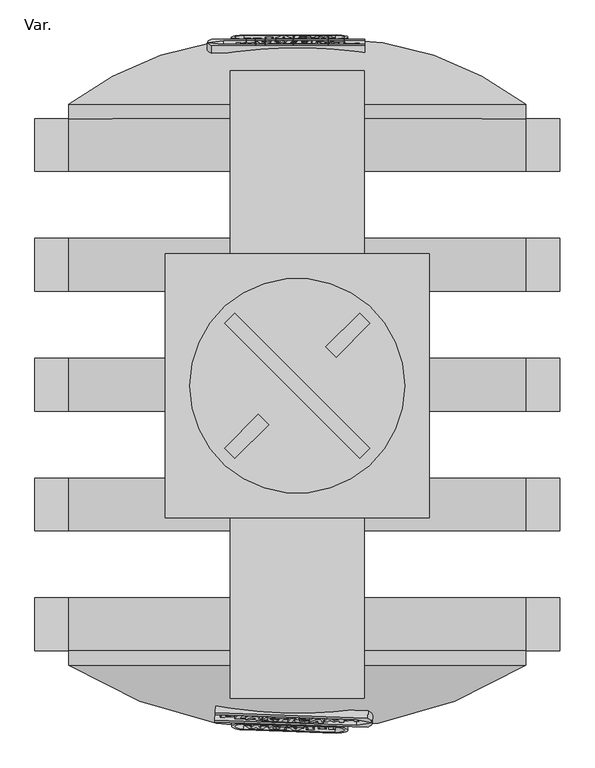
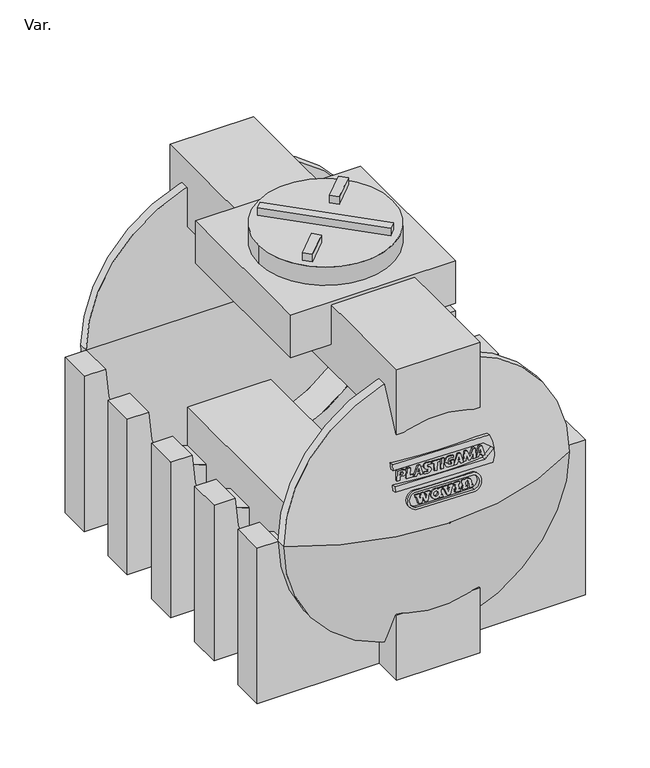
"""IFC4 building model written with IfcOpenShell, lengths in millimetres: pipe fitting geometry, PlastigamaWavin_Unionesdetubería_ZNoUsarTanque1200L : Var.."""

from ifc_helpers import new_model, si_unit, point, frame, frame_2d, origin, origin_2d, place, context, project, spatial, polyline, circle_curve, ellipse_curve, trimmed, segment, composite_curve, outline, extrude, source, transform, mapped, element, save
from ifc_brep_helpers import plane_surface, cylinder_surface, revolved_surface, advanced_brep


def var_8224f5ad(model_context):
    return source(origin(), model_context, "Body", "SolidModel", [
        extrude(outline(composite_curve([segment(polyline([(7.1853273, -60.8484834), (-189.0646726, -60.8484834)]), True, "CONTINUOUS"), segment(trimmed(circle_curve(frame_2d((-182.3768294, -30.8484834)), 30.7364157), [point((-189.0646726, -60.8484834))], [point((-189.0646726, -0.8484834))], False, "CARTESIAN"), True, "CONTINUOUS"), segment(polyline([(-189.0646726, -0.8484834), (7.1853274, -0.8484834)]), True, "CONTINUOUS"), segment(trimmed(circle_curve(frame_2d((0.0, -30.8484834)), 30.8484834), [point((7.1853274, -0.8484834))], [point((7.1853273, -60.8484834))], False, "CARTESIAN"), True, "CONTINUOUS")], self_intersect=False), holes=[composite_curve([segment(polyline([(-186.7755788, -53.1040075), (4.9297558, -53.1040076)]), True, "CONTINUOUS"), segment(trimmed(circle_curve(frame_2d((0.0634268, -30.4727929)), 23.1484996), [point((4.9297558, -53.1040076))], [point((4.9297558, -7.8415783))], True, "CARTESIAN"), True, "CONTINUOUS"), segment(polyline([(4.9297558, -7.8415783), (-186.7755788, -7.8415782)]), True, "CONTINUOUS"), segment(trimmed(circle_curve(frame_2d((-182.0733889, -30.4727929)), 23.114551), [point((-186.7755788, -7.8415782))], [point((-186.7755788, -53.1040075))], True, "CARTESIAN"), True, "CONTINUOUS")], self_intersect=False)]), frame((75.0111325, 1276.3296707, 58.6801636), z_axis=(-0.001818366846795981, 0.9886376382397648, 0.15030739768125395), x_axis=(0.9999961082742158, 0.0021157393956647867, -0.0018185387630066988)), (0.0, 0.0, 1.0), 13.7735647),
        extrude(outline(polyline([(8.181052, -1e-07), (8.181052, -2.5070966), (20.0567725, -1e-07), (1e-07, 5.7511869), (0.0, 12.9313401), (19.1260952, 18.7787742), (8.181052, 21.9172148), (8.181052, 19.1331053), (1e-07, 19.1331053), (1e-07, 34.1331052), (8.1810519, 34.1331053), (8.181052, 31.1407783), (30.3255263, 24.7909524), (30.3255263, 14.7909525), (16.3218199, 9.4154332), (30.3255263, 5.399935), (30.3255263, -5.4100505), (8.181052, -11.3436445), (8.181052, -14.1189122), (0.0, -14.1189122), (0.0, 0.0), (8.181052, -1e-07)])), frame((64.564803, 1269.4047047, 104.1023243), z_axis=(-0.0018183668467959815, 0.9886376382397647, 0.15030739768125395), x_axis=(-0.002115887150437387, 0.15030350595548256, -0.9886376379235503)), (0.0, 0.0, 1.0), 13.500271),
        extrude(outline(composite_curve([segment(polyline([(8.1237197, 73.1894514), (8.1237197, 69.298226), (23.1237197, 69.298226), (23.1237197, 73.1894515), (30.5730968, 73.1894514), (30.5730969, 61.7540511), (28.2283842, 61.7540512)]), True, "CONTINUOUS"), segment(trimmed(circle_curve(frame_2d((15.3574079, 52.2639778)), 15.9913578), [point((28.2283842, 61.7540512))], [point((2.4864317, 61.7540511))], False, "CARTESIAN"), True, "CONTINUOUS"), segment(polyline([(2.4864317, 61.7540511), (0.2913814, 61.7540511), (0.2913814, 73.1894514), (8.1237197, 73.1894514)]), True, "CONTINUOUS")], self_intersect=False), holes=[composite_curve([segment(trimmed(circle_curve(frame_2d((15.3574079, 52.5764778)), 7.2516024), [point((8.1058056, 52.5764777))], [point((22.6090103, 52.5764777))], True, "CARTESIAN"), True, "CONTINUOUS"), segment(trimmed(circle_curve(frame_2d((15.3574079, 52.5764778)), 7.2516024), [point((22.6090103, 52.5764777))], [point((8.1058056, 52.5764777))], True, "CARTESIAN"), True, "CONTINUOUS")], self_intersect=False)]), frame((64.564803, 1269.4047047, 104.1023243), z_axis=(-0.0018183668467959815, 0.9886376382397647, 0.15030739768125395), x_axis=(-0.002115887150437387, 0.15030350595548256, -0.9886376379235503)), (0.0, 0.0, 1.0), 14.0737204),
        extrude(outline(polyline([(7.8874604, 109.6844314), (7.8874604, 107.0403936), (30.4716386, 98.3711398), (30.4716386, 88.3711399), (8.1237197, 79.7925775), (8.1237197, 76.6589032), (-0.0397811, 76.6589031), (-0.0397811, 91.6589031), (8.1237197, 91.6589031), (8.1237197, 89.0310043), (19.2500767, 93.3020126), (8.1237197, 97.5730209), (8.1237197, 95.0733366), (-0.0397811, 95.0733367), (-0.0397811, 109.6844313), (7.8874604, 109.6844314)])), frame((64.564803, 1269.4047047, 104.1023243), z_axis=(-0.0018183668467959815, 0.9886376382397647, 0.15030739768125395), x_axis=(-0.002115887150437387, 0.15030350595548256, -0.9886376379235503)), (0.0, 0.0, 1.0), 14.0737204),
        extrude(outline(polyline([(7.8874604, 131.9486829), (7.8874604, 128.0356065), (22.5749604, 128.0356065), (22.5749604, 131.9486829), (30.6836214, 131.9486829), (30.6836215, 115.1170726), (22.5749603, 115.1170726), (22.5749604, 118.7610295), (7.8874604, 118.7610295), (7.8874603, 115.1170726), (-0.0397811, 115.1170726), (-0.0397811, 131.948683), (7.8874604, 131.9486829)])), frame((64.564803, 1269.4047047, 104.1023243), z_axis=(-0.0018183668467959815, 0.9886376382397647, 0.15030739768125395), x_axis=(-0.002115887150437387, 0.15030350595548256, -0.9886376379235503)), (0.0, 0.0, 1.0), 11.7602982),
        extrude(outline(composite_curve([segment(polyline([(8.349017, 139.8801684), (0.2219187, 139.8801684), (0.2219188, 151.7216341), (2.4774868, 151.7216342)]), True, "CONTINUOUS"), segment(trimmed(circle_curve(frame_2d((11.4081692, 159.6534453)), 11.9444848), [point((2.4774868, 151.7216342))], [point((9.8907036, 171.5011462))], False, "CARTESIAN"), True, "CONTINUOUS"), segment(polyline([(9.8907036, 171.5011462), (23.2738561, 171.5011463), (23.273856, 175.3061602), (30.2934507, 175.3061602), (30.2934507, 162.2510261), (9.8907036, 162.2510261)]), True, "CONTINUOUS"), segment(trimmed(circle_curve(frame_2d((12.6434388, 157.4947587)), 5.495419), [point((9.8907036, 162.2510261))], [point((9.8907036, 152.7384913))], True, "CARTESIAN"), True, "CONTINUOUS"), segment(polyline([(9.8907036, 152.7384913), (22.5850173, 152.7384914), (22.5850174, 156.7403163), (30.2934507, 156.7403164), (30.2934508, 139.8801684), (22.5850174, 139.8801683), (22.5850173, 143.1603528), (8.3490169, 143.1603528), (8.349017, 139.8801684)]), True, "CONTINUOUS")], self_intersect=False)), frame((64.564803, 1269.4047047, 104.1023243), z_axis=(-0.0018183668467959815, 0.9886376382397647, 0.15030739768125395), x_axis=(-0.002115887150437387, 0.15030350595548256, -0.9886376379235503)), (0.0, 0.0, 1.0), 9.6751027),
        extrude(outline(composite_curve([segment(polyline([(14.5699434, 0.0), (6.2453821, 39.1639817), (-221.0352575, 229.8750825), (-208.8842213, 244.3561235), (36.0389803, 38.8411553)]), True, "CONTINUOUS"), segment(trimmed(circle_curve(frame_2d((-68.7268997, 68.3797755)), 108.8504464), [point((36.0389803, 38.8411553))], [point((-20.2169298, -29.0635542))], False, "CARTESIAN"), True, "CONTINUOUS"), segment(polyline([(-20.2169298, -29.0635542), (-266.0643934, 177.2269618), (-254.5801447, 190.9133564), (-27.0584663, 0.0), (14.5699434, 0.0)]), True, "CONTINUOUS")], self_intersect=False)), frame((-176.1479599, 1259.3817468, 167.1156518), z_axis=(-0.0018183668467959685, 0.9886376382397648, 0.15030739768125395), x_axis=(-0.7646813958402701, -0.09823398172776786, 0.6368771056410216)), (0.0, 0.0, 1.0), 16.0070559),
        extrude(outline(composite_curve([segment(polyline([(1.4477281, -85.5267201), (6.8154985, -85.7141668)]), True, "CONTINUOUS"), segment(trimmed(circle_curve(frame_2d((19.2603296, -90.8187844)), 13.4510572), [point((6.8154985, -85.7141668))], [point((6.9983832, -96.3483063))], True, "CARTESIAN"), True, "CONTINUOUS"), segment(trimmed(circle_curve(frame_2d((10.1071764, -94.9463966)), 3.4102706), [point((6.9983832, -96.3483063))], [point((12.7844724, -97.0587487))], True, "CARTESIAN"), True, "CONTINUOUS"), segment(trimmed(circle_curve(frame_2d((-1.0037723, -89.1340642)), 15.9033429), [point((12.7844724, -97.0587487))], [point((14.5987634, -92.2125693))], True, "CARTESIAN"), True, "CONTINUOUS"), segment(trimmed(circle_curve(frame_2d((24.6516287, -94.1960798)), 10.2466782), [point((14.5987634, -92.2125693))], [point((25.1590451, -83.961973))], False, "CARTESIAN"), True, "CONTINUOUS"), segment(trimmed(circle_curve(frame_2d((21.6223282, -95.5300528)), 12.0966457), [point((25.1590451, -83.961973))], [point((33.7023958, -94.8969633))], False, "CARTESIAN"), True, "CONTINUOUS"), segment(polyline([(33.7023958, -94.8969633), (34.3186028, -106.6548924), (28.6762897, -106.4578585), (28.594413, -101.7671408)]), True, "CONTINUOUS"), segment(trimmed(circle_curve(frame_2d((-0.3633806, -101.6261464)), 28.9581368), [point((28.594413, -101.7671408))], [point((28.3129376, -97.5959527))], True, "CARTESIAN"), True, "CONTINUOUS"), segment(trimmed(circle_curve(frame_2d((24.8866077, -98.077492)), 3.4600025), [point((28.3129376, -97.5959527))], [point((21.4857113, -97.4406863))], True, "CARTESIAN"), True, "CONTINUOUS"), segment(trimmed(circle_curve(frame_2d((-1.087538, -93.2139252)), 22.9655632), [point((21.4857113, -97.4406863))], [point((19.532845, -103.3241623))], False, "CARTESIAN"), True, "CONTINUOUS"), segment(trimmed(circle_curve(frame_2d((11.694297, -100.1535732)), 8.4554994), [point((19.532845, -103.3241623))], [point((5.0333339, -105.3619358))], False, "CARTESIAN"), True, "CONTINUOUS"), segment(trimmed(circle_curve(frame_2d((21.091556, -92.8056372)), 20.3844826), [point((5.0333339, -105.3619358))], [point((1.2295263, -97.3911482))], False, "CARTESIAN"), True, "CONTINUOUS"), segment(trimmed(circle_curve(frame_2d((21.091556, -92.8056372)), 20.3844826), [point((1.2295263, -97.3911482))], [point((0.8590162, -90.3213937))], False, "CARTESIAN"), True, "CONTINUOUS"), segment(polyline([(0.8590162, -90.3213937), (1.4477281, -85.5267201)]), True, "CONTINUOUS")], self_intersect=False)), frame((128.5654469, 1259.1083413, 172.6002772), z_axis=(-0.001818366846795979, 0.9886376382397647, 0.15030739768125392), x_axis=(-0.13707726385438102, -0.14913521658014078, 0.9792693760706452)), (0.0, 0.0, 1.0), 16.91573),
        extrude(outline(polyline([(27.5763972, -109.6351216), (34.8606695, -109.889494), (37.890103, -136.8185633), (31.3967807, -136.8185632), (30.1471651, -127.9270863), (5.7488146, -127.0750772), (4.541572, -118.4850996), (28.8201805, -118.4850995), (27.5763972, -109.6351216)])), frame((128.5654469, 1259.1083413, 172.6002772), z_axis=(-0.001818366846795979, 0.9886376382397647, 0.15030739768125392), x_axis=(-0.13707726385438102, -0.14913521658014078, 0.9792693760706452)), (0.0, 0.0, 1.0), 16.91573),
        extrude(outline(polyline([(39.0175373, -140.2386805), (40.1125954, -149.9728094), (8.6442387, -148.3236227), (7.4304864, -139.6873265), (39.0175373, -140.2386805)])), frame((128.5654469, 1259.1083413, 172.6002772), z_axis=(-0.001818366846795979, 0.9886376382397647, 0.15030739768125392), x_axis=(-0.13707726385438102, -0.14913521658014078, 0.9792693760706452)), (0.0, 0.0, 1.0), 16.91573),
        extrude(outline(composite_curve([segment(polyline([(23.1939737, -170.3964839), (28.5258183, -170.023645), (29.9387477, -182.4988083), (16.3441212, -181.7863441)]), True, "CONTINUOUS"), segment(trimmed(circle_curve(frame_2d((16.5515605, -177.8281662)), 3.96361), [point((16.3441212, -181.7863441))], [point((13.0386494, -179.6638295))], False, "CARTESIAN"), True, "CONTINUOUS"), segment(trimmed(circle_curve(frame_2d((29.1632447, -172.9274469)), 17.4751659), [point((13.0386494, -179.6638295))], [point((11.858146, -175.35952))], False, "CARTESIAN"), True, "CONTINUOUS"), segment(polyline([(11.858146, -175.35952), (10.6343186, -166.6515355)]), True, "CONTINUOUS"), segment(trimmed(circle_curve(frame_2d((19.6112708, -164.0774359)), 9.3387183), [point((10.6343186, -166.6515355))], [point((13.6084583, -156.9235626))], False, "CARTESIAN"), True, "CONTINUOUS"), segment(trimmed(circle_curve(frame_2d((25.451471, -171.0375155)), 18.424457), [point((13.6084583, -156.9235626))], [point((32.9453729, -154.2059365))], False, "CARTESIAN"), True, "CONTINUOUS"), segment(trimmed(circle_curve(frame_2d((26.1712455, -169.4208757)), 16.6548245), [point((32.9453729, -154.2059365))], [point((42.6639863, -167.1029721))], False, "CARTESIAN"), True, "CONTINUOUS"), segment(polyline([(42.6639863, -167.1029721), (43.5022603, -173.0676018), (43.6242066, -180.0539022), (37.8990125, -179.5530126), (37.946681, -172.5445021)]), True, "CONTINUOUS"), segment(trimmed(circle_curve(frame_2d((28.9763911, -171.6044833)), 9.0194089), [point((37.946681, -172.5445021))], [point((36.0682471, -166.0317536))], True, "CARTESIAN"), True, "CONTINUOUS"), segment(trimmed(circle_curve(frame_2d((27.3124289, -172.9120129)), 11.1356328), [point((36.0682471, -166.0317536))], [point((17.8061363, -167.1126407))], True, "CARTESIAN"), True, "CONTINUOUS"), segment(trimmed(circle_curve(frame_2d((22.0061709, -169.6748976)), 4.9199036), [point((17.8061363, -167.1126407))], [point((17.4561049, -171.5463545))], True, "CARTESIAN"), True, "CONTINUOUS"), segment(trimmed(circle_curve(frame_2d((20.0640662, -171.1798294)), 2.6335912), [point((17.4561049, -171.5463545))], [point((20.1100286, -173.8130195))], True, "CARTESIAN"), True, "CONTINUOUS"), segment(polyline([(20.1100286, -173.8130195), (23.6654146, -173.75096), (23.1939737, -170.3964839)]), True, "CONTINUOUS")], self_intersect=False)), frame((128.5654469, 1259.1083413, 172.6002772), z_axis=(-0.001818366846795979, 0.9886376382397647, 0.15030739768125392), x_axis=(-0.13707726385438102, -0.14913521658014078, 0.9792693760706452)), (0.0, 0.0, 1.0), 16.91573),
        extrude(outline(polyline([(45.7961119, -195.116855), (46.8910442, -202.9077029), (17.2462036, -213.6975425), (16.0203417, -204.9750818), (22.7487613, -202.5261373), (21.6229318, -194.5154441), (14.1690495, -191.8024528), (12.9549446, -183.1636476), (45.7961119, -195.116855)]), holes=[polyline([(26.4927506, -196.2879132), (27.0732974, -200.4187175), (34.9362687, -198.5503471), (26.4927506, -196.2879132)])]), frame((128.5654469, 1259.1083413, 172.6002772), z_axis=(-0.001818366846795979, 0.9886376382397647, 0.15030739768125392), x_axis=(-0.13707726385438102, -0.14913521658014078, 0.9792693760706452)), (0.0, 0.0, 1.0), 16.91573),
        extrude(outline(composite_curve([segment(polyline([(20.1980598, 0.0), (22.479995, -16.2368134)]), True, "CONTINUOUS"), segment(trimmed(circle_curve(frame_2d((12.5734381, -17.6290892)), 10.0039144), [point((22.479995, -16.2368134))], [point((2.666881, -19.0213651))], False, "CARTESIAN"), True, "CONTINUOUS"), segment(polyline([(2.666881, -19.0213651), (1.226136, -8.7699314), (-9.7785453, -8.1932005), (-10.9300245, -1e-07), (20.1980598, 0.0)]), True, "CONTINUOUS")], self_intersect=False), holes=[composite_curve([segment(polyline([(6.5246654, -9.0476156), (7.2650704, -14.3158713)]), True, "CONTINUOUS"), segment(trimmed(circle_curve(frame_2d((11.7799024, -13.681353)), 4.5592018), [point((7.2650704, -14.3158713))], [point((16.2947343, -14.3158713))], True, "CARTESIAN"), True, "CONTINUOUS"), segment(polyline([(16.2947343, -14.3158713), (15.6213301, -9.5243516), (6.5246654, -9.0476156)]), True, "CONTINUOUS")], self_intersect=False)]), frame((128.5654469, 1259.1083413, 172.6002772), z_axis=(-0.001818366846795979, 0.9886376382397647, 0.15030739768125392), x_axis=(-0.13707726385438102, -0.14913521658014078, 0.9792693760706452)), (0.0, 0.0, 1.0), 12.3541588),
        extrude(outline(polyline([(24.0583245, -30.6048389), (25.5752479, -41.3983105), (1.4689446, -40.4617273), (2.9277983, -50.8420102), (-4.1794432, -50.7179529), (-7.0825502, -30.0612729), (24.0583245, -30.6048389)])), frame((128.5654469, 1259.1083413, 172.6002772), z_axis=(-0.001818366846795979, 0.9886376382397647, 0.15030739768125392), x_axis=(-0.13707726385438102, -0.14913521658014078, 0.9792693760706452)), (0.0, 0.0, 1.0), 13.500271),
        extrude(outline(polyline([(29.9055021, -72.2096697), (0.0921342, -83.0608482), (-1.1248143, -74.4018103), (5.448106, -71.6117712), (4.4065623, -64.2008031), (-3.0469396, -60.7251781), (-4.1683899, -52.7456442), (28.885502, -64.9519917), (29.9055021, -72.2096697)]), holes=[polyline([(10.2013386, -70.239696), (18.1820171, -68.2498893), (9.5626085, -65.694895), (10.2013386, -70.239696)])]), frame((128.5654469, 1259.1083413, 172.6002772), z_axis=(-0.001818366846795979, 0.9886376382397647, 0.15030739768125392), x_axis=(-0.13707726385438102, -0.14913521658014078, 0.9792693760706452)), (0.0, 0.0, 1.0), 15.4283509),
        extrude(outline(polyline([(49.0751323, -218.4482975), (50.1361137, -225.9975734), (30.6470991, -235.503001), (52.9324938, -245.8948511), (53.9714896, -253.2876903), (23.1887325, -255.9808326), (21.8650086, -246.5620468), (35.404729, -245.3774748), (20.7372935, -238.5379373), (19.9736422, -233.1042759), (33.7492021, -225.4683583), (18.6012865, -223.3394576), (17.446681, -215.1240133), (49.0751323, -218.4482975)])), frame((128.5654469, 1259.1083413, 172.6002772), z_axis=(-0.001818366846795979, 0.9886376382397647, 0.15030739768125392), x_axis=(-0.13707726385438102, -0.14913521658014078, 0.9792693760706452)), (0.0, 0.0, 1.0), 13.1344518),
        extrude(outline(polyline([(56.0151236, -269.0375029), (57.000961, -276.0521004), (27.0469584, -287.5503647), (25.7460243, -278.2937373), (31.653631, -276.0260195), (30.6166759, -268.6477007), (23.9537026, -265.5407052), (22.7431972, -256.9275121), (56.0151236, -269.0375029)]), holes=[polyline([(44.7429983, -271.9007443), (35.8073022, -269.5064318), (36.4640551, -274.1794708), (44.7429983, -271.9007443)])]), frame((128.5654469, 1259.1083413, 172.6002772), z_axis=(-0.001818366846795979, 0.9886376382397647, 0.15030739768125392), x_axis=(-0.13707726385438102, -0.14913521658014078, 0.9792693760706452)), (0.0, 0.0, 1.0), 9.7751399),
        extrude(outline(composite_curve([segment(polyline([(7.1853275, -60.8484834), (-189.0646725, -60.8484834)]), True, "CONTINUOUS"), segment(trimmed(circle_curve(frame_2d((-182.3768292, -30.8484835)), 30.7364157), [point((-189.0646725, -60.8484834))], [point((-189.0646725, -0.8484834))], False, "CARTESIAN"), True, "CONTINUOUS"), segment(polyline([(-189.0646725, -0.8484834), (7.1853275, -0.8484834)]), True, "CONTINUOUS"), segment(trimmed(circle_curve(frame_2d((1e-07, -30.8484834)), 30.8484834), [point((7.1853275, -0.8484834))], [point((7.1853275, -60.8484834))], False, "CARTESIAN"), True, "CONTINUOUS")], self_intersect=False), holes=[composite_curve([segment(polyline([(-186.7755787, -53.1040076), (4.9297559, -53.1040076)]), True, "CONTINUOUS"), segment(trimmed(circle_curve(frame_2d((0.0634268, -30.472793)), 23.1484996), [point((4.9297559, -53.1040076))], [point((4.9297559, -7.8415783))], True, "CARTESIAN"), True, "CONTINUOUS"), segment(polyline([(4.9297559, -7.8415783), (-186.7755787, -7.8415783)]), True, "CONTINUOUS"), segment(trimmed(circle_curve(frame_2d((-182.0733888, -30.4727929)), 23.114551), [point((-186.7755787, -7.8415783))], [point((-186.7755787, -53.1040076))], True, "CARTESIAN"), True, "CONTINUOUS")], self_intersect=False)]), frame((-106.4689623, -152.734474, 81.5232899), z_axis=(-0.03299122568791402, -0.9746362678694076, 0.2213497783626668), x_axis=(-0.9994299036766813, 0.03376052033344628, -0.00030806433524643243)), (0.0, 0.0, 1.0), 13.7735647),
        extrude(outline(polyline([(8.1810519, 0.0), (8.181052, -2.5070966), (20.0567725, 0.0), (0.0, 5.7511869), (1e-07, 12.9313401), (19.1260951, 18.7787743), (8.181052, 21.9172149), (8.181052, 19.1331053), (0.0, 19.1331053), (0.0, 34.1331054), (8.1810519, 34.1331053), (8.181052, 31.1407783), (30.3255263, 24.7909525), (30.3255263, 14.7909524), (16.3218199, 9.4154332), (30.3255263, 5.3999351), (30.3255263, -5.4100505), (8.181052, -11.3436445), (8.181052, -14.1189122), (1e-07, -14.1189122), (0.0, 0.0), (8.1810519, 0.0)])), frame((-95.6020293, -142.9303134, 126.3121483), z_axis=(-0.03299122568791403, -0.9746362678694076, 0.22134977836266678), x_axis=(-0.007172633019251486, -0.2212337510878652, -0.9751944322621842)), (0.0, 0.0, 1.0), 13.500271),
        extrude(outline(composite_curve([segment(polyline([(8.1237197, 73.1894514), (8.1237197, 69.298226), (23.1237197, 69.298226), (23.1237197, 73.1894515), (30.5730969, 73.1894514), (30.5730968, 61.7540512), (28.2283841, 61.7540512)]), True, "CONTINUOUS"), segment(trimmed(circle_curve(frame_2d((15.3574079, 52.2639778)), 15.9913578), [point((28.2283841, 61.7540512))], [point((2.4864317, 61.7540511))], False, "CARTESIAN"), True, "CONTINUOUS"), segment(polyline([(2.4864317, 61.7540511), (0.2913814, 61.7540511), (0.2913814, 73.1894514), (8.1237197, 73.1894514)]), True, "CONTINUOUS")], self_intersect=False), holes=[composite_curve([segment(trimmed(circle_curve(frame_2d((15.3574079, 52.5764778)), 7.2516024), [point((8.1058055, 52.5764777))], [point((22.6090103, 52.5764778))], True, "CARTESIAN"), True, "CONTINUOUS"), segment(trimmed(circle_curve(frame_2d((15.3574079, 52.5764778)), 7.2516024), [point((22.6090103, 52.5764778))], [point((8.1058055, 52.5764777))], True, "CARTESIAN"), True, "CONTINUOUS")], self_intersect=False)]), frame((-95.6020293, -142.9303134, 126.3121483), z_axis=(-0.03299122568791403, -0.9746362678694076, 0.22134977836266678), x_axis=(-0.007172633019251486, -0.2212337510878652, -0.9751944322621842)), (0.0, 0.0, 1.0), 14.0737204),
        extrude(outline(polyline([(7.8874604, 109.6844314), (7.8874604, 107.0403937), (30.4716386, 98.3711399), (30.4716386, 88.3711398), (8.1237197, 79.7925775), (8.1237196, 76.6589032), (-0.0397811, 76.6589031), (-0.0397811, 91.6589032), (8.1237197, 91.6589032), (8.1237197, 89.0310044), (19.2500766, 93.3020127), (8.1237196, 97.5730209), (8.1237197, 95.0733367), (-0.0397811, 95.0733367), (-0.0397811, 109.6844315), (7.8874604, 109.6844314)])), frame((-95.6020293, -142.9303134, 126.3121483), z_axis=(-0.03299122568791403, -0.9746362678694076, 0.22134977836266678), x_axis=(-0.007172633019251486, -0.2212337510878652, -0.9751944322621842)), (0.0, 0.0, 1.0), 14.0737204),
        extrude(outline(polyline([(7.8874604, 131.948683), (7.8874603, 128.0356066), (22.5749604, 128.0356065), (22.5749604, 131.948683), (30.6836214, 131.948683), (30.6836214, 115.1170727), (22.5749604, 115.1170726), (22.5749603, 118.7610295), (7.8874604, 118.7610295), (7.8874604, 115.1170727), (-0.0397811, 115.1170727), (-0.0397811, 131.948683), (7.8874604, 131.948683)])), frame((-95.6020293, -142.9303134, 126.3121483), z_axis=(-0.03299122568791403, -0.9746362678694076, 0.22134977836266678), x_axis=(-0.007172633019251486, -0.2212337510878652, -0.9751944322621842)), (0.0, 0.0, 1.0), 11.7602982),
        extrude(outline(composite_curve([segment(polyline([(8.3490169, 139.8801684), (0.2219188, 139.8801684), (0.2219187, 151.7216342), (2.4774868, 151.7216341)]), True, "CONTINUOUS"), segment(trimmed(circle_curve(frame_2d((11.4081693, 159.6534455)), 11.9444848), [point((2.4774868, 151.7216341))], [point((9.8907036, 171.5011463))], False, "CARTESIAN"), True, "CONTINUOUS"), segment(polyline([(9.8907036, 171.5011463), (23.2738561, 171.5011463), (23.2738561, 175.3061602), (30.2934507, 175.3061602), (30.2934507, 162.2510262), (9.8907036, 162.2510262)]), True, "CONTINUOUS"), segment(trimmed(circle_curve(frame_2d((12.6434387, 157.4947588)), 5.495419), [point((9.8907036, 162.2510262))], [point((9.8907036, 152.7384913))], True, "CARTESIAN"), True, "CONTINUOUS"), segment(polyline([(9.8907036, 152.7384913), (22.5850174, 152.7384914), (22.5850174, 156.7403163), (30.2934508, 156.7403164), (30.2934507, 139.8801684), (22.5850174, 139.8801684), (22.5850174, 143.1603528), (8.3490169, 143.1603528), (8.3490169, 139.8801684)]), True, "CONTINUOUS")], self_intersect=False)), frame((-95.6020293, -142.9303134, 126.3121483), z_axis=(-0.03299122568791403, -0.9746362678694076, 0.22134977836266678), x_axis=(-0.007172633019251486, -0.2212337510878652, -0.9751944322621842)), (0.0, 0.0, 1.0), 9.6751027),
        extrude(outline(composite_curve([segment(polyline([(14.5699434, 0.0), (6.2453821, 39.1639816), (-221.0352575, 229.8750825), (-208.8842213, 244.3561235), (36.0389804, 38.8411553)]), True, "CONTINUOUS"), segment(trimmed(circle_curve(frame_2d((-68.7268996, 68.3797755)), 108.8504464), [point((36.0389804, 38.8411553))], [point((-20.2169297, -29.0635543))], False, "CARTESIAN"), True, "CONTINUOUS"), segment(polyline([(-20.2169297, -29.0635543), (-266.0643934, 177.2269618), (-254.5801448, 190.9133565), (-27.0584663, 0.0), (14.5699434, 0.0)]), True, "CONTINUOUS")], self_intersect=False)), frame((145.5622769, -137.0585722, 188.1108005), z_axis=(-0.032991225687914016, -0.9746362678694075, 0.22134977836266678), x_axis=(0.7702182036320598, 0.11634425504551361, 0.6270788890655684)), (0.0, 0.0, 1.0), 16.0070559),
        extrude(outline(composite_curve([segment(polyline([(1.4477281, -85.52672), (6.8154985, -85.7141667)]), True, "CONTINUOUS"), segment(trimmed(circle_curve(frame_2d((19.2603295, -90.8187843)), 13.4510572), [point((6.8154985, -85.7141667))], [point((6.9983831, -96.3483061))], True, "CARTESIAN"), True, "CONTINUOUS"), segment(trimmed(circle_curve(frame_2d((10.1071763, -94.9463966)), 3.4102706), [point((6.9983831, -96.3483061))], [point((12.7844724, -97.0587486))], True, "CARTESIAN"), True, "CONTINUOUS"), segment(trimmed(circle_curve(frame_2d((-1.0037723, -89.1340642)), 15.9033429), [point((12.7844724, -97.0587486))], [point((14.5987635, -92.2125692))], True, "CARTESIAN"), True, "CONTINUOUS"), segment(trimmed(circle_curve(frame_2d((24.6516287, -94.1960797)), 10.2466782), [point((14.5987635, -92.2125692))], [point((25.1590451, -83.9619729))], False, "CARTESIAN"), True, "CONTINUOUS"), segment(trimmed(circle_curve(frame_2d((21.6223282, -95.5300527)), 12.0966457), [point((25.1590451, -83.9619729))], [point((33.7023958, -94.8969632))], False, "CARTESIAN"), True, "CONTINUOUS"), segment(polyline([(33.7023958, -94.8969632), (34.3186027, -106.6548923), (28.6762898, -106.4578584), (28.594413, -101.7671407)]), True, "CONTINUOUS"), segment(trimmed(circle_curve(frame_2d((-0.3633806, -101.6261464)), 28.9581368), [point((28.594413, -101.7671407))], [point((28.3129376, -97.5959527))], True, "CARTESIAN"), True, "CONTINUOUS"), segment(trimmed(circle_curve(frame_2d((24.8866076, -98.0774919)), 3.4600025), [point((28.3129376, -97.5959527))], [point((21.4857113, -97.4406862))], True, "CARTESIAN"), True, "CONTINUOUS"), segment(trimmed(circle_curve(frame_2d((-1.087538, -93.2139252)), 22.9655632), [point((21.4857113, -97.4406862))], [point((19.5328451, -103.3241623))], False, "CARTESIAN"), True, "CONTINUOUS"), segment(trimmed(circle_curve(frame_2d((11.694297, -100.1535732)), 8.4554994), [point((19.5328451, -103.3241623))], [point((5.0333338, -105.3619357))], False, "CARTESIAN"), True, "CONTINUOUS"), segment(trimmed(circle_curve(frame_2d((21.091556, -92.8056372)), 20.3844826), [point((5.0333338, -105.3619357))], [point((1.2295263, -97.3911481))], False, "CARTESIAN"), True, "CONTINUOUS"), segment(trimmed(circle_curve(frame_2d((21.091556, -92.8056372)), 20.3844826), [point((1.2295263, -97.3911481))], [point((0.8590162, -90.3213936))], False, "CARTESIAN"), True, "CONTINUOUS"), segment(polyline([(0.8590162, -90.3213936), (1.4477281, -85.52672)]), True, "CONTINUOUS")], self_intersect=False)), frame((-158.9218707, -125.4203586, 193.973557), z_axis=(-0.03299122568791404, -0.9746362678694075, 0.2213497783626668), x_axis=(0.1461965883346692, 0.21438216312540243, 0.9657467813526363)), (0.0, 0.0, 1.0), 16.91573),
        extrude(outline(polyline([(27.5763971, -109.6351215), (34.8606694, -109.8894938), (37.890103, -136.8185633), (31.3967808, -136.8185632), (30.1471651, -127.9270863), (5.7488145, -127.0750772), (4.541572, -118.4850995), (28.8201805, -118.4850995), (27.5763971, -109.6351215)])), frame((-158.9218707, -125.4203586, 193.973557), z_axis=(-0.03299122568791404, -0.9746362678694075, 0.2213497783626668), x_axis=(0.1461965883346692, 0.21438216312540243, 0.9657467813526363)), (0.0, 0.0, 1.0), 16.91573),
        extrude(outline(polyline([(39.0175373, -140.2386804), (40.1125955, -149.9728093), (8.6442386, -148.3236227), (7.4304863, -139.6873264), (39.0175373, -140.2386804)])), frame((-158.9218707, -125.4203586, 193.973557), z_axis=(-0.03299122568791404, -0.9746362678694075, 0.2213497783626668), x_axis=(0.1461965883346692, 0.21438216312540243, 0.9657467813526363)), (0.0, 0.0, 1.0), 16.91573),
        extrude(outline(composite_curve([segment(polyline([(23.1939737, -170.3964837), (28.5258184, -170.0236449), (29.9387476, -182.4988082), (16.3441212, -181.7863441)]), True, "CONTINUOUS"), segment(trimmed(circle_curve(frame_2d((16.5515605, -177.8281661)), 3.96361), [point((16.3441212, -181.7863441))], [point((13.0386494, -179.6638293))], False, "CARTESIAN"), True, "CONTINUOUS"), segment(trimmed(circle_curve(frame_2d((29.1632447, -172.9274469)), 17.4751659), [point((13.0386494, -179.6638293))], [point((11.8581459, -175.3595199))], False, "CARTESIAN"), True, "CONTINUOUS"), segment(polyline([(11.8581459, -175.3595199), (10.6343185, -166.6515355)]), True, "CONTINUOUS"), segment(trimmed(circle_curve(frame_2d((19.6112708, -164.0774358)), 9.3387183), [point((10.6343185, -166.6515355))], [point((13.6084584, -156.9235626))], False, "CARTESIAN"), True, "CONTINUOUS"), segment(trimmed(circle_curve(frame_2d((25.451471, -171.0375154)), 18.424457), [point((13.6084584, -156.9235626))], [point((32.9453728, -154.2059364))], False, "CARTESIAN"), True, "CONTINUOUS"), segment(trimmed(circle_curve(frame_2d((26.1712454, -169.4208757)), 16.6548245), [point((32.9453728, -154.2059364))], [point((42.6639862, -167.1029721))], False, "CARTESIAN"), True, "CONTINUOUS"), segment(polyline([(42.6639862, -167.1029721), (43.5022603, -173.0676016), (43.6242066, -180.0539022), (37.8990126, -179.5530126), (37.9466809, -172.544502)]), True, "CONTINUOUS"), segment(trimmed(circle_curve(frame_2d((28.9763911, -171.6044833)), 9.0194089), [point((37.9466809, -172.544502))], [point((36.068247, -166.0317535))], True, "CARTESIAN"), True, "CONTINUOUS"), segment(trimmed(circle_curve(frame_2d((27.3124289, -172.9120128)), 11.1356328), [point((36.068247, -166.0317535))], [point((17.8061363, -167.1126406))], True, "CARTESIAN"), True, "CONTINUOUS"), segment(trimmed(circle_curve(frame_2d((22.0061708, -169.6748976)), 4.9199036), [point((17.8061363, -167.1126406))], [point((17.4561049, -171.5463544))], True, "CARTESIAN"), True, "CONTINUOUS"), segment(trimmed(circle_curve(frame_2d((20.0640661, -171.1798294)), 2.6335912), [point((17.4561049, -171.5463544))], [point((20.1100286, -173.8130194))], True, "CARTESIAN"), True, "CONTINUOUS"), segment(polyline([(20.1100286, -173.8130194), (23.6654145, -173.75096), (23.1939737, -170.3964837)]), True, "CONTINUOUS")], self_intersect=False)), frame((-158.9218707, -125.4203586, 193.973557), z_axis=(-0.03299122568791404, -0.9746362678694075, 0.2213497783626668), x_axis=(0.1461965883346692, 0.21438216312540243, 0.9657467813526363)), (0.0, 0.0, 1.0), 16.91573),
        extrude(outline(polyline([(45.7961118, -195.116855), (46.8910441, -202.9077028), (17.2462037, -213.6975423), (16.0203417, -204.9750817), (22.7487613, -202.5261372), (21.6229318, -194.515444), (14.1690495, -191.8024527), (12.9549446, -183.1636476), (45.7961118, -195.116855)]), holes=[polyline([(26.4927506, -196.2879131), (27.0732973, -200.4187175), (34.9362687, -198.550347), (26.4927506, -196.2879131)])]), frame((-158.9218707, -125.4203586, 193.973557), z_axis=(-0.03299122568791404, -0.9746362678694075, 0.2213497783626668), x_axis=(0.1461965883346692, 0.21438216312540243, 0.9657467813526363)), (0.0, 0.0, 1.0), 16.91573),
        extrude(outline(composite_curve([segment(polyline([(20.1980597, 0.0), (22.479995, -16.2368133)]), True, "CONTINUOUS"), segment(trimmed(circle_curve(frame_2d((12.5734379, -17.6290891)), 10.0039144), [point((22.479995, -16.2368133))], [point((2.666881, -19.0213649))], False, "CARTESIAN"), True, "CONTINUOUS"), segment(polyline([(2.666881, -19.0213649), (1.2261359, -8.7699313), (-9.7785453, -8.1932004), (-10.9300245, 0.0), (20.1980597, 0.0)]), True, "CONTINUOUS")], self_intersect=False), holes=[composite_curve([segment(polyline([(6.5246654, -9.0476155), (7.2650704, -14.3158712)]), True, "CONTINUOUS"), segment(trimmed(circle_curve(frame_2d((11.7799024, -13.681353)), 4.5592018), [point((7.2650704, -14.3158712))], [point((16.2947343, -14.3158712))], True, "CARTESIAN"), True, "CONTINUOUS"), segment(polyline([(16.2947343, -14.3158712), (15.6213301, -9.5243515), (6.5246654, -9.0476155)]), True, "CONTINUOUS")], self_intersect=False)]), frame((-158.9218707, -125.4203586, 193.973557), z_axis=(-0.03299122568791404, -0.9746362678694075, 0.2213497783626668), x_axis=(0.1461965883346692, 0.21438216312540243, 0.9657467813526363)), (0.0, 0.0, 1.0), 12.3541588),
        extrude(outline(polyline([(24.0583245, -30.6048388), (25.5752479, -41.3983104), (1.4689446, -40.4617273), (2.9277982, -50.8420102), (-4.1794432, -50.7179529), (-7.0825502, -30.0612729), (24.0583245, -30.6048388)])), frame((-158.9218707, -125.4203586, 193.973557), z_axis=(-0.03299122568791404, -0.9746362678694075, 0.2213497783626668), x_axis=(0.1461965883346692, 0.21438216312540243, 0.9657467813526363)), (0.0, 0.0, 1.0), 13.500271),
        extrude(outline(polyline([(29.9055021, -72.2096696), (0.0921341, -83.0608482), (-1.1248142, -74.4018102), (5.448106, -71.6117711), (4.4065623, -64.200803), (-3.0469396, -60.725178), (-4.1683899, -52.7456441), (28.885502, -64.9519917), (29.9055021, -72.2096696)]), holes=[polyline([(10.2013386, -70.2396959), (18.1820171, -68.2498892), (9.5626085, -65.6948949), (10.2013386, -70.2396959)])]), frame((-158.9218707, -125.4203586, 193.973557), z_axis=(-0.03299122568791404, -0.9746362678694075, 0.2213497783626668), x_axis=(0.1461965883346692, 0.21438216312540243, 0.9657467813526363)), (0.0, 0.0, 1.0), 15.4283509),
        extrude(outline(polyline([(49.0751322, -218.4482974), (50.1361138, -225.9975734), (30.6470992, -235.5030009), (52.9324938, -245.8948511), (53.9714895, -253.2876902), (23.1887325, -255.9808326), (21.8650085, -246.5620467), (35.4047289, -245.3774747), (20.7372934, -238.5379371), (19.9736421, -233.1042758), (33.7492022, -225.4683583), (18.6012865, -223.3394576), (17.446681, -215.1240133), (49.0751322, -218.4482974)])), frame((-158.9218707, -125.4203586, 193.973557), z_axis=(-0.03299122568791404, -0.9746362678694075, 0.2213497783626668), x_axis=(0.1461965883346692, 0.21438216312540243, 0.9657467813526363)), (0.0, 0.0, 1.0), 13.1344518),
        extrude(outline(polyline([(56.0151235, -269.0375029), (57.000961, -276.0521004), (27.0469584, -287.5503647), (25.7460243, -278.2937372), (31.653631, -276.0260195), (30.6166759, -268.6477006), (23.9537025, -265.5407051), (22.7431972, -256.927512), (56.0151235, -269.0375029)]), holes=[polyline([(44.7429983, -271.9007443), (35.8073022, -269.5064317), (36.4640549, -274.1794707), (44.7429983, -271.9007443)])]), frame((-158.9218707, -125.4203586, 193.973557), z_axis=(-0.03299122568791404, -0.9746362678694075, 0.2213497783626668), x_axis=(0.1461965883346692, 0.21438216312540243, 0.9657467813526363)), (0.0, 0.0, 1.0), 9.7751399),
        extrude(outline(polyline([(81.3172798, 615.1240764), (60.1040764, 636.3372798), (130.8147545, 707.047958), (152.027958, 685.8347545), (81.3172798, 615.1240764)])), frame((0.0, 0.0, 623.5), z_axis=(0.0, 0.0, 1.0), x_axis=(1.0, 0.0, 0.0)), (0.0, 0.0, 1.0), 27.0),
        extrude(outline(polyline([(-130.8147545, 707.047958), (152.027958, 424.2052455), (130.8147545, 402.992042), (-152.027958, 685.8347545), (-130.8147545, 707.047958)])), frame((0.0, 0.0, 623.5), z_axis=(0.0, 0.0, 1.0), x_axis=(1.0, 0.0, 0.0)), (0.0, 0.0, 1.0), 27.0),
        extrude(outline(polyline([(-152.027958, 424.2052455), (-81.3172798, 494.9159236), (-60.1040764, 473.7027202), (-130.8147545, 402.992042), (-152.027958, 424.2052455)])), frame((0.0, 0.0, 623.5), z_axis=(0.0, 0.0, 1.0), x_axis=(1.0, 0.0, 0.0)), (0.0, 0.0, 1.0), 27.0),
        extrude(outline(composite_curve([segment(trimmed(circle_curve(frame_2d((0.0, 555.02)), 225.0), [point((-225.0, 555.02))], [point((225.0, 555.02))], False, "CARTESIAN"), True, "CONTINUOUS"), segment(trimmed(circle_curve(frame_2d((0.0, 555.02)), 225.0), [point((225.0, 555.02))], [point((-225.0, 555.02))], False, "CARTESIAN"), True, "CONTINUOUS")], self_intersect=False)), frame((0.0, 0.0, 549.5), z_axis=(0.0, 0.0, 1.0), x_axis=(1.0, 0.0, 0.0)), (0.0, 0.0, 1.0), 74.0),
        extrude(outline(polyline([(276.0, 831.02), (276.0, 279.02), (-276.0, 279.02), (-276.0, 831.02), (276.0, 831.02)])), frame((0.0, 0.0, 409.5), z_axis=(0.0, 0.0, 1.0), x_axis=(1.0, 0.0, 0.0)), (0.0, 0.0, 1.0), 150.0),
        extrude(outline(polyline([(140.0, 1214.8), (140.0, -100.0), (-140.0, -100.0), (-140.0, 1214.8), (140.0, 1214.8)])), frame((0.0, 0.0, -549.5), z_axis=(0.0, 0.0, 1.0), x_axis=(1.0, 0.0, 0.0)), (0.0, 0.0, 1.0), 230.0),
        extrude(outline(polyline([(140.0, 1214.8), (140.0, -100.0), (-140.0, -100.0), (-140.0, 1214.8), (140.0, 1214.8)])), frame((0.0, 0.0, 319.5), z_axis=(0.0, 0.0, 1.0), x_axis=(1.0, 0.0, 0.0)), (0.0, 0.0, 1.0), 230.0),
        extrude(outline(composite_curve([segment(polyline([(-549.5, -549.5), (-549.5, 549.5), (0.0, 549.5), (0.0, 478.1)]), True, "CONTINUOUS"), segment(trimmed(circle_curve(origin_2d(), 478.1), [point((0.0, 478.1))], [point((0.0, -478.1))], True, "CARTESIAN"), True, "CONTINUOUS"), segment(polyline([(0.0, -478.1), (0.0, -549.5), (-549.5, -549.5)]), True, "CONTINUOUS")], self_intersect=False)), frame((0.0, 1004.0, 0.0), z_axis=(0.0, 1.0, 0.0), x_axis=(0.0, 0.0, 1.0)), (0.0, 0.0, 1.0), 110.8),
        extrude(outline(composite_curve([segment(polyline([(-549.5, -549.5), (-549.5, 549.5), (0.0, 549.5), (0.0, 478.1)]), True, "CONTINUOUS"), segment(trimmed(circle_curve(origin_2d(), 478.1), [point((0.0, 478.1))], [point((0.0, -478.1))], True, "CARTESIAN"), True, "CONTINUOUS"), segment(polyline([(0.0, -478.1), (0.0, -549.5), (-549.5, -549.5)]), True, "CONTINUOUS")], self_intersect=False)), frame((0.0, 753.0, 0.0), z_axis=(0.0, 1.0, 0.0), x_axis=(0.0, 0.0, 1.0)), (0.0, 0.0, 1.0), 110.8),
        extrude(outline(composite_curve([segment(polyline([(-549.5, -549.5), (-549.5, 549.5), (0.0, 549.5), (0.0, 478.1)]), True, "CONTINUOUS"), segment(trimmed(circle_curve(origin_2d(), 478.1), [point((0.0, 478.1))], [point((0.0, -478.1))], True, "CARTESIAN"), True, "CONTINUOUS"), segment(polyline([(0.0, -478.1), (0.0, -549.5), (-549.5, -549.5)]), True, "CONTINUOUS")], self_intersect=False)), frame((0.0, 502.0, 0.0), z_axis=(0.0, 1.0, 0.0), x_axis=(0.0, 0.0, 1.0)), (0.0, 0.0, 1.0), 110.8),
        extrude(outline(composite_curve([segment(polyline([(-549.5, -549.5), (-549.5, 549.5), (0.0, 549.5), (0.0, 478.1)]), True, "CONTINUOUS"), segment(trimmed(circle_curve(origin_2d(), 478.1), [point((0.0, 478.1))], [point((0.0, -478.1))], True, "CARTESIAN"), True, "CONTINUOUS"), segment(polyline([(0.0, -478.1), (0.0, -549.5), (-549.5, -549.5)]), True, "CONTINUOUS")], self_intersect=False)), frame((0.0, 251.0, 0.0), z_axis=(0.0, 1.0, 0.0), x_axis=(0.0, 0.0, 1.0)), (0.0, 0.0, 1.0), 110.8),
        extrude(outline(composite_curve([segment(polyline([(-549.5, -549.5), (-549.5, 549.5), (0.0, 549.5), (0.0, 478.1)]), True, "CONTINUOUS"), segment(trimmed(circle_curve(origin_2d(), 478.1), [point((0.0, 478.1))], [point((0.0, -478.1))], True, "CARTESIAN"), True, "CONTINUOUS"), segment(polyline([(0.0, -478.1), (0.0, -549.5), (-549.5, -549.5)]), True, "CONTINUOUS")], self_intersect=False)), frame((0.0, 0.0, 0.0), z_axis=(0.0, 1.0, 0.0), x_axis=(0.0, 0.0, 1.0)), (0.0, 0.0, 1.0), 110.8),
        advanced_brep(
        [(479.1, 0.0, 0.0), (-479.1, 0.0, 0.0), (0.0, 0.0, 0.0), (479.1, -30.0, 0.0), (-479.1, -30.0, 0.0), (3.3843941, -167.6, 0.0), (-3.3843941, -167.6, 0.0), (0.0, -167.6, 0.0)],
        [
            (0, 1, circle_curve(frame((0.0, 0.0, 0.0), z_axis=(0.0, 1.0, 0.0), x_axis=(-1.0, 0.0, 0.0)), 479.1)),
            (1, 2),
            (2, 0),
            (1, 0, circle_curve(frame((0.0, 0.0, 0.0), z_axis=(0.0, 1.0, 0.0), x_axis=(-1.0, 0.0, 0.0)), 479.1)),
            (3, 4, circle_curve(frame((0.0, -30.0, 0.0), z_axis=(0.0, 1.0, 0.0), x_axis=(-1.0, 0.0, 0.0)), 479.1)),
            (4, 1),
            (0, 3),
            (4, 3, circle_curve(frame((0.0, -30.0, 0.0), z_axis=(0.0, 1.0, 0.0), x_axis=(-1.0, 0.0, 0.0)), 479.1)),
            (5, 6, circle_curve(frame((0.0, -167.6, 0.0), z_axis=(0.0, 1.0, 0.0), x_axis=(-1.0, 0.0, 0.0)), 3.3843941)),
            (6, 4, circle_curve(frame((-3.3843941, 723.5304421, 0.0), z_axis=(0.0, 0.0, -1.0), x_axis=(1.0, 0.0, 0.0)), 891.1304421)),
            (3, 5, circle_curve(frame((3.3843941, 723.5304421, 0.0), z_axis=(0.0, 0.0, -1.0), x_axis=(-1.0, 0.0, 0.0)), 891.1304421)),
            (6, 5, circle_curve(frame((0.0, -167.6, 0.0), z_axis=(0.0, 1.0, 0.0), x_axis=(-1.0, 0.0, 0.0)), 3.3843941)),
            (7, 6),
            (5, 7),
        ],
        [
            plane_surface(frame((0.0, 0.0, 0.0), z_axis=(0.0, 1.0, 0.0), x_axis=(-1.0, 0.0, 0.0))),
            cylinder_surface(frame((0.0, 1118.9376645, 0.0), z_axis=(0.0, -1.0, 0.0), x_axis=(-1.0, 0.0, 0.0)), 479.1),
            revolved_surface(trimmed(ellipse_curve(frame((-3.3843941, 723.5304421, 0.0), z_axis=(0.0, 0.0, 1.0), x_axis=(1.0, 0.0, 0.0)), 891.1304421, 891.1304421), [point((-479.1, -30.0, 0.0))], [point((-3.3843941, -167.6, 0.0))], True, "CARTESIAN"), (0.0, 1118.9376645, 0.0), (0.0, -1.0, 0.0)),
            plane_surface(frame((0.0, -167.6, 0.0), z_axis=(0.0, -1.0, 0.0), x_axis=(-1.0, 0.0, 0.0))),
        ],
        [
            (0, [[1, 2, 3]]),
            (0, [[4, -3, -2]]),
            (1, [[5, 6, -1, 7]]),
            (1, [[8, -7, -4, -6]]),
            (2, [[9, 10, -5, 11]]),
            (2, [[12, -11, -8, -10]]),
            (3, [[13, -9, 14]]),
            (3, [[-14, -12, -13]]),
        ],
    ),
        advanced_brep(
        [(70.0, 1282.4, 0.0), (-70.0, 1282.4, 0.0), (0.0, 1282.4, 0.0), (479.1, 1144.8, 0.0), (-479.1, 1144.8, 0.0), (479.1, 1114.8, 0.0), (-479.1, 1114.8, 0.0), (0.0, 1114.8, 0.0)],
        [
            (0, 1, circle_curve(frame((0.0, 1282.4, 0.0), z_axis=(0.0, 1.0, 0.0), x_axis=(-1.0, 0.0, 0.0)), 70.0)),
            (1, 2),
            (2, 0),
            (1, 0, circle_curve(frame((0.0, 1282.4, 0.0), z_axis=(0.0, 1.0, 0.0), x_axis=(-1.0, 0.0, 0.0)), 70.0)),
            (3, 4, circle_curve(frame((0.0, 1144.8, 0.0), z_axis=(0.0, 1.0, 0.0), x_axis=(-1.0, 0.0, 0.0)), 479.1)),
            (4, 1, circle_curve(frame((-70.0, 605.4502543, 0.0), z_axis=(0.0, 0.0, -1.0), x_axis=(1.0, 0.0, 0.0)), 676.9497457)),
            (0, 3, circle_curve(frame((70.0, 605.4502543, 0.0), z_axis=(0.0, 0.0, -1.0), x_axis=(-1.0, 0.0, 0.0)), 676.9497457)),
            (4, 3, circle_curve(frame((0.0, 1144.8, 0.0), z_axis=(0.0, 1.0, 0.0), x_axis=(-1.0, 0.0, 0.0)), 479.1)),
            (5, 6, circle_curve(frame((0.0, 1114.8, 0.0), z_axis=(0.0, 1.0, 0.0), x_axis=(-1.0, 0.0, 0.0)), 479.1)),
            (6, 4),
            (3, 5),
            (6, 5, circle_curve(frame((0.0, 1114.8, 0.0), z_axis=(0.0, 1.0, 0.0), x_axis=(-1.0, 0.0, 0.0)), 479.1)),
            (7, 6),
            (5, 7),
        ],
        [
            plane_surface(frame((0.0, 1282.4, 0.0), z_axis=(0.0, 1.0, 0.0), x_axis=(-1.0, 0.0, 0.0))),
            revolved_surface(trimmed(ellipse_curve(frame((-70.0, 605.4502543, 0.0), z_axis=(0.0, 0.0, 1.0), x_axis=(1.0, 0.0, 0.0)), 676.9497457, 676.9497457), [point((-70.0, 1282.4, 0.0))], [point((-479.1, 1144.8, 0.0))], True, "CARTESIAN"), (0.0, 1118.9376645, 0.0), (0.0, -1.0, 0.0)),
            cylinder_surface(frame((0.0, 1118.9376645, 0.0), z_axis=(0.0, -1.0, 0.0), x_axis=(-1.0, 0.0, 0.0)), 479.1),
            plane_surface(frame((0.0, 1114.8, 0.0), z_axis=(0.0, -1.0, 0.0), x_axis=(-1.0, 0.0, 0.0))),
        ],
        [
            (0, [[1, 2, 3]]),
            (0, [[4, -3, -2]]),
            (1, [[5, 6, -1, 7]]),
            (1, [[8, -7, -4, -6]]),
            (2, [[9, 10, -5, 11]]),
            (2, [[12, -11, -8, -10]]),
            (3, [[13, -9, 14]]),
            (3, [[-14, -12, -13]]),
        ],
    ),
    ])


if __name__ == "__main__":
    model = new_model("IFC4")
    model_context = context("Model", 3, world=origin())
    ifc_project = project(units=[si_unit("LENGTHUNIT", "METRE", prefix="MILLI")], contexts=[model_context])
    site = spatial("IfcSite", under=ifc_project)
    building = spatial("IfcBuilding", under=site)
    placement = place(None, origin())
    var_shape = var_8224f5ad(model_context)
    element("IfcPipeFitting", 1, ObjectType="PlastigamaWavin_Unionesdetubería_ZNoUsarTanque1200L : Var.", at=placement, inside=building, context=model_context, shape_type="MappedRepresentation", body=[
        mapped(var_shape, transform((0.0, 0.0, 0.0), x_axis=(1.0, 0.0, 0.0), y_axis=(0.0, 1.0, 0.0), z_axis=(0.0, 0.0, 1.0))),
    ])
    save(model, "model.ifc")
